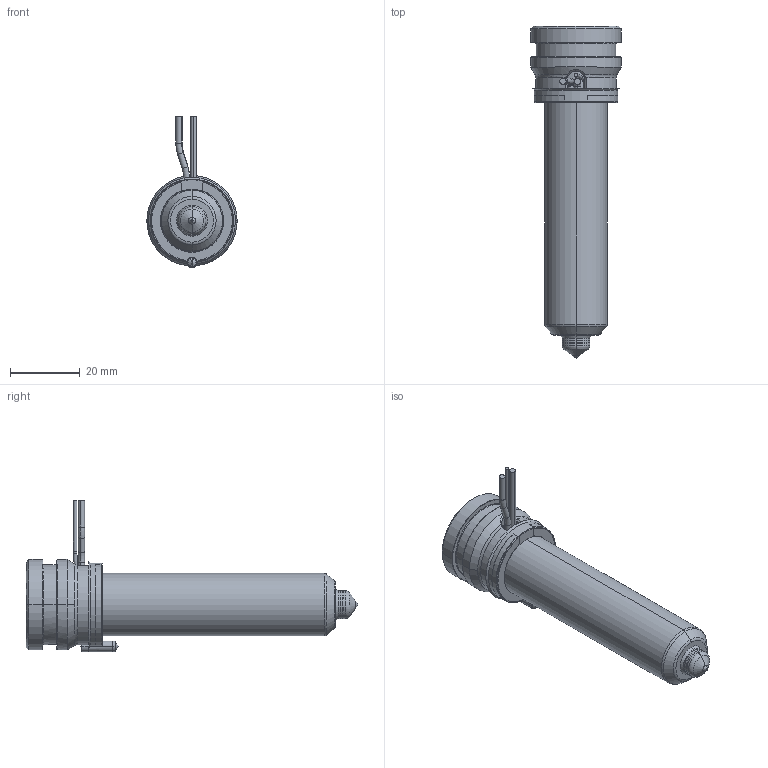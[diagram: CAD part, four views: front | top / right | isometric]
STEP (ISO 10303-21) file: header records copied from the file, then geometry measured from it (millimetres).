
FILE_DESCRIPTION((''),'2;1');
FILE_NAME('MPN-08-24-TX8-076-A','2026-02-05T11:54:20',('UPTIO'),('Thermoplay S.p.A.'),'CREO PARAMETRIC BY PTC INC, 2023494','CREO PARAMETRIC BY PTC INC, 2023494','');
FILE_SCHEMA(('CONFIG_CONTROL_DESIGN','SHAPE_APPEARANCE_LAYERS_GROUPS'));
Length unit declared in the file: millimetre
Products named in the file (1): MPN-08-24-TX8-076-A
Bounding box: 26 x 95.5 x 43.5 mm (x, y, z)
Volume: 19343.1 mm3; surface area: 23827.6 mm2
Topology: 2 solids, 3 shells, 548 faces, 1458 edges, 904 vertices
Faces by surface type: cylinder 180, plane 144, bspline 82, torus 64, cone 60, sphere 12, extrusion 6
Entity records: 29884 total; most frequent: CARTESIAN_POINT 13538, ORIENTED_EDGE 2896, DIRECTION 2574, EDGE_CURVE 1448, AXIS2_PLACEMENT_3D 1006, VERTEX_POINT 904, EDGE_LOOP 576, VECTOR 562
